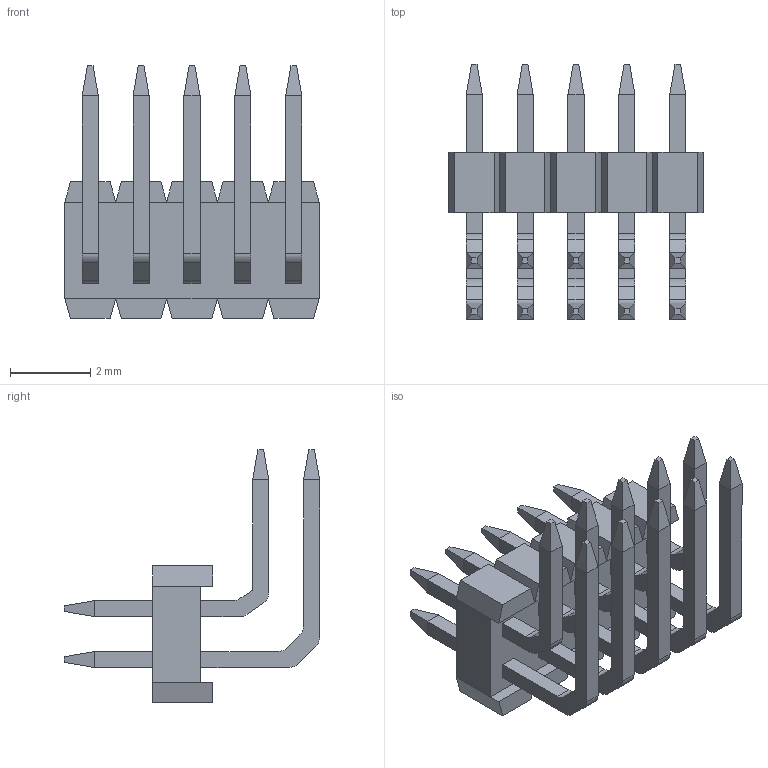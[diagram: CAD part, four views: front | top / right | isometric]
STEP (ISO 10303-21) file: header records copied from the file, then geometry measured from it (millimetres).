
FILE_DESCRIPTION(/* description */ ('STEP AP203'),/* implementation_level */ '2;1');
FILE_NAME(/* name */ 'BD035-10A-A-0220-0290-0120-L-G',/* time_stamp */ '2026-07-03T11:58:10+02:00',/* author */ ('License CC BY-ND 4.0'),/* organization */ ('CADENAS'),/* preprocessor_version */ 'ST-DEVELOPER v20',/* originating_system */ 'PARTsolutions',/* authorisation */ ' ');
FILE_SCHEMA (('CONFIG_CONTROL_DESIGN'));
Length unit declared in the file: millimetre
Products named in the file (4): BD035-10A-A-0220-0290-0120-L-G; BD035-10A-A-0220-0290-0120-L-G_H; BD035-10A-A-0220-0290-0120-L-G_P1; BD035-10A-A-0220-0290-0120-L-G_P2
Assembly tree (11 placements, depth 2):
  BD035-10A-A-0220-0290-0120-L-G
    BD035-10A-A-0220-0290-0120-L-G_H
    BD035-10A-A-0220-0290-0120-L-G_P1  x5
    BD035-10A-A-0220-0290-0120-L-G_P2  x5
Bounding box: 6.35 x 6.37 x 6.3 mm (x, y, z)
Volume: 39.5 mm3; surface area: 248.7 mm2
Topology: 11 solids, 11 shells, 293 faces, 733 edges, 462 vertices
Faces by surface type: plane 258, cylinder 35
Entity records: 3911 total; most frequent: CARTESIAN_POINT 676, ORIENTED_EDGE 658, DIRECTION 609, EDGE_CURVE 329, LINE 315, VECTOR 315, VERTEX_POINT 214, AXIS2_PLACEMENT_3D 147
